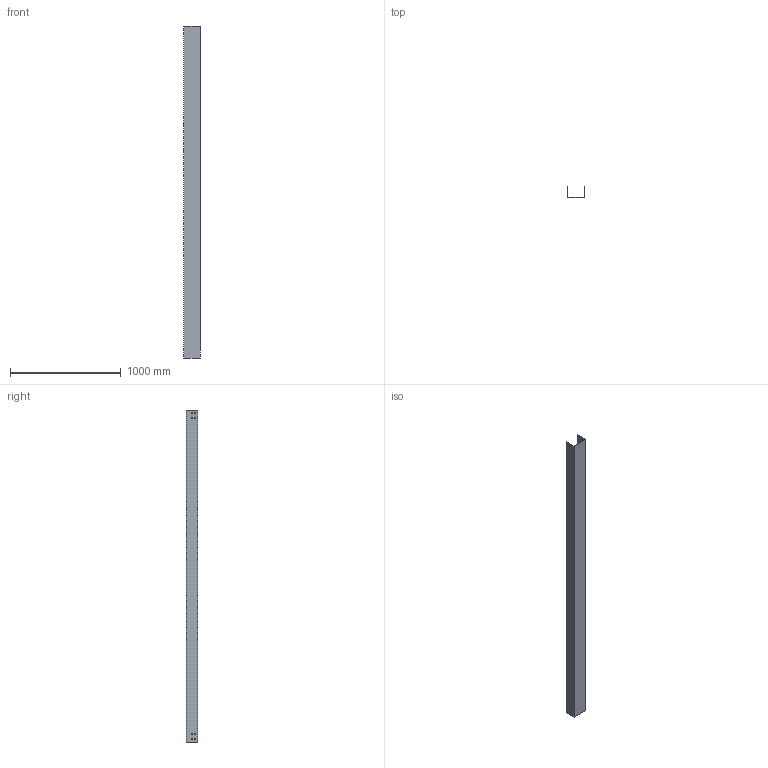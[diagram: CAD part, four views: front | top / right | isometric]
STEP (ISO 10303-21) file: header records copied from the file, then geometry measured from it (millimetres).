
FILE_DESCRIPTION (( 'STEP AP214' ), '1' );
FILE_NAME ('CC_151.step', '2025-07-16T09:03:56', ( '' ), ( '' ), 'SwSTEP 2.0', 'SolidWorks 2023', '' );
FILE_SCHEMA (( 'AUTOMOTIVE_DESIGN' ));
Length unit declared in the file: millimetre
Products named in the file (1): CC_151
Bounding box: 150 x 100 x 3000 mm (x, y, z)
Volume: 1559820 mm3; surface area: 2090617 mm2
Topology: 1 solids, 1 shells, 74 faces, 216 edges, 144 vertices
Faces by surface type: plane 74
Entity records: 2487 total; most frequent: CARTESIAN_POINT 435, ORIENTED_EDGE 432, DIRECTION 366, EDGE_CURVE 216, LINE 216, VECTOR 216, VERTEX_POINT 144, EDGE_LOOP 106
